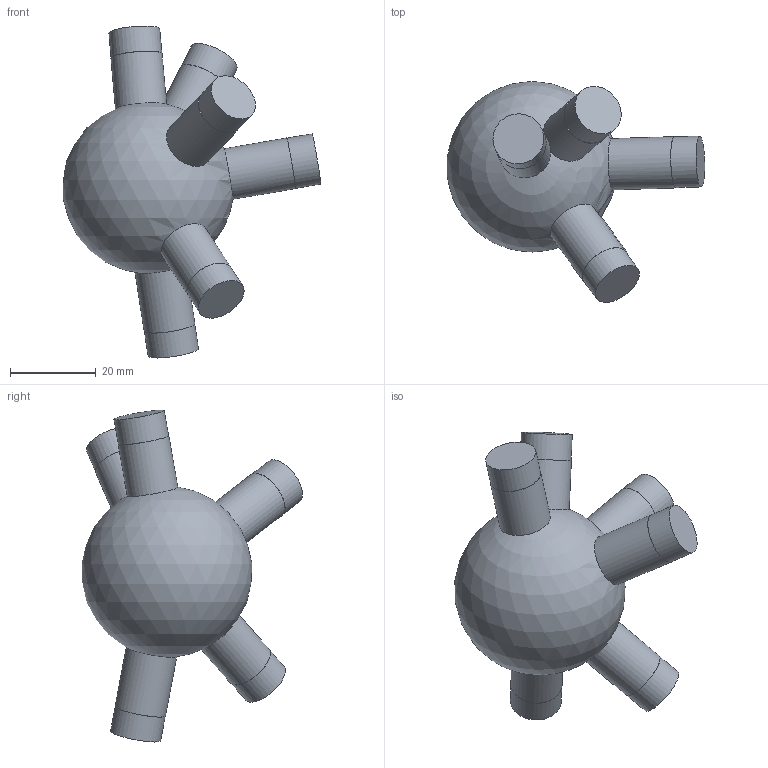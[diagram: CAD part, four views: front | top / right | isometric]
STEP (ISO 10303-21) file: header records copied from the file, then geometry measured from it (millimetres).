
FILE_DESCRIPTION(('Open CASCADE Model'),'2;1');
FILE_NAME('Open CASCADE Shape Model','2026-10-21T12:47:57',('Author'),( 'Open CASCADE'),'Open CASCADE STEP processor 7.9','Open CASCADE 7.9' ,'Unknown');
FILE_SCHEMA(('AUTOMOTIVE_DESIGN { 1 0 10303 214 1 1 1 1 }'));
Length unit declared in the file: millimetre
Products named in the file (1): Open CASCADE STEP translator 7.9 41
Bounding box: 60.18 x 51.64 x 77.57 mm (x, y, z)
Volume: 46423.6 mm3; surface area: 9425.4 mm2
Topology: 1 solids, 1 shells, 25 faces, 46 edges, 31 vertices
Faces by surface type: cylinder 12, plane 12, sphere 1
Full cylindrical faces by diameter (mm): 11.9 x6, 12 x6
Entity records: 1840 total; most frequent: CARTESIAN_POINT 817, DIRECTION 208, ORIENTED_EDGE 92, PCURVE 92, DEFINITIONAL_REPRESENTATION 92, LINE 70, VECTOR 70, AXIS2_PLACEMENT_3D 60
